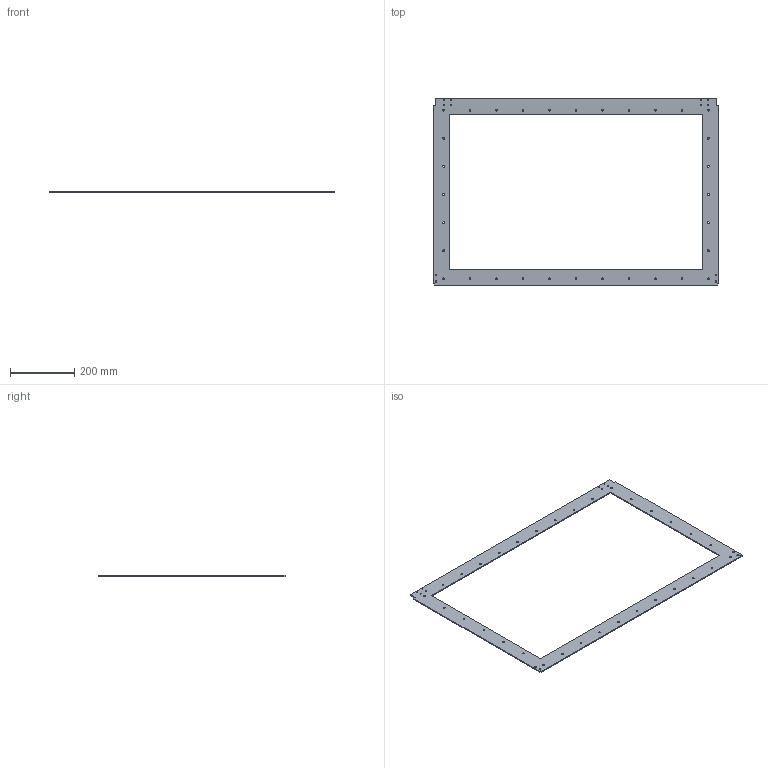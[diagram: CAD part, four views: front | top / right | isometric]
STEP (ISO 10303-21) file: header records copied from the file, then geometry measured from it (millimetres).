
FILE_DESCRIPTION (( 'STEP AP203' ), '1' );
FILE_NAME ('FRAME DOOR.STEP', '2023-10-25T16:11:50', ( '' ), ( '' ), 'SwSTEP 2.0', 'SolidWorks 2021', '' );
FILE_SCHEMA (( 'CONFIG_CONTROL_DESIGN' ));
Length unit declared in the file: millimetre
Products named in the file (1): FRAME DOOR
Bounding box: 892 x 584.23 x 3.17 mm (x, y, z)
Volume: 439318.4 mm3; surface area: 296419.3 mm2
Topology: 1 solids, 1 shells, 114 faces, 328 edges, 216 vertices
Faces by surface type: cylinder 88, plane 18, cone 8
Entity records: 4089 total; most frequent: DIRECTION 742, CARTESIAN_POINT 659, ORIENTED_EDGE 656, EDGE_CURVE 328, AXIS2_PLACEMENT_3D 299, VERTEX_POINT 216, EDGE_LOOP 204, CIRCLE 184
